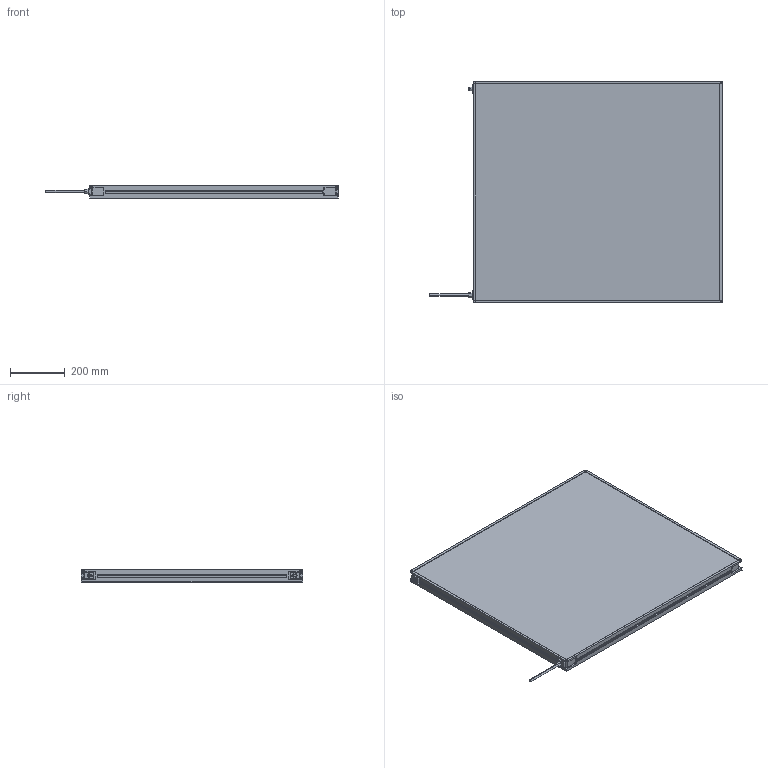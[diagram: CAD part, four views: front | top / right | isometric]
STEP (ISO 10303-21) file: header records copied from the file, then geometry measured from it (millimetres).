
FILE_DESCRIPTION (( 'STEP AP214' ), '1' );
FILE_NAME ('MBACK-xxxx-xxx-M1A2_CLIENT800x900.STEP', '2022-04-01T11:52:36', ( '' ), ( '' ), 'SwSTEP 2.0', 'SolidWorks 2020', '' );
FILE_SCHEMA (( 'AUTOMOTIVE_DESIGN' ));
Length unit declared in the file: millimetre
Products named in the file (1): MBACK-xxxx-xxx-M1A2_CLIENT800x900
Bounding box: 1067.4 x 808 x 45.5 mm (x, y, z)
Volume: 30578509 mm3; surface area: 1701223.2 mm2
Topology: 1 solids, 1 shells, 470 faces, 1210 edges, 804 vertices
Faces by surface type: plane 265, cylinder 117, bspline 80, cone 8
Entity records: 18046 total; most frequent: CARTESIAN_POINT 6837, ORIENTED_EDGE 2420, DIRECTION 2082, EDGE_CURVE 1210, VERTEX_POINT 804, LINE 800, VECTOR 800, AXIS2_PLACEMENT_3D 641
